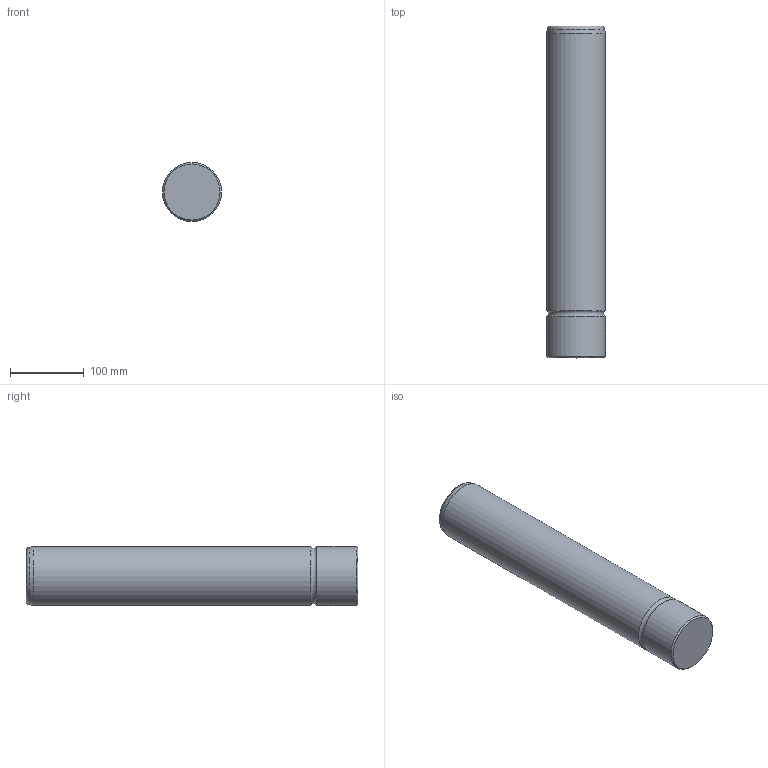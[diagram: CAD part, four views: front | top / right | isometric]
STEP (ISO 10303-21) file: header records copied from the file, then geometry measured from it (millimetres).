
FILE_DESCRIPTION( ( 'STEP AP203' ), '1' );
FILE_NAME( 'D:/Cuma/23 02 2009/D10 Serisi/D10_80450.step', '2002-12-31T22:53:41', ( ' ' ), ( ' ' ), 'XStep 1.0', ' ', ' ' );
FILE_SCHEMA( ( 'CONFIG_CONTROL_DESIGN' ) );
Length unit declared in the file: metre
Products named in the file (1): 1
Bounding box: 80 x 450 x 80 mm (x, y, z)
Volume: 2254932 mm3; surface area: 122439.2 mm2
Topology: 1 solids, 1 shells, 8 faces, 13 edges, 7 vertices
Faces by surface type: plane 2, torus 2, cone 2, cylinder 2
Full cylindrical faces by diameter (mm): 80 x2
Entity records: 199 total; most frequent: DIRECTION 32, CARTESIAN_POINT 23, AXIS2_PLACEMENT_3D 16, EDGE_LOOP 14, ORIENTED_EDGE 14, FACE_OUTER_BOUND 12, ADVANCED_FACE 8, EDGE_CURVE 7
